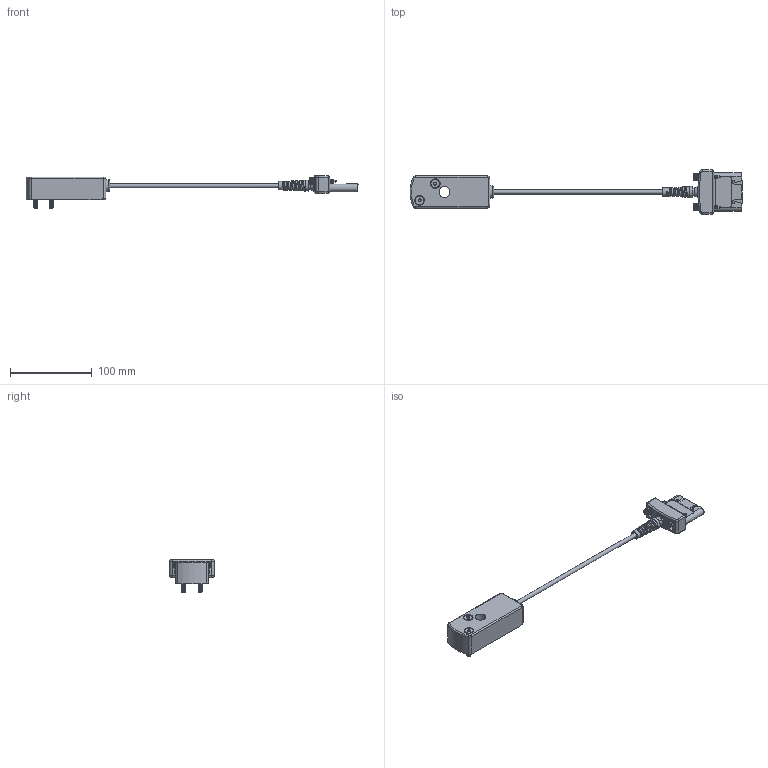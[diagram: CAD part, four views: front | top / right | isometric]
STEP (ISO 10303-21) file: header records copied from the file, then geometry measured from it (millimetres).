
FILE_DESCRIPTION(/* description */ (''),/* implementation_level */ '2;1');
FILE_NAME(/* name */ 'F:\CAD files\Itr\3D MARKETING MODELS\FORCE SENSORS\FS05\FS05_SENSOR_ADAPTER.stp',/* time_stamp */ '2021-02-08T14:47:40-05:00',/* author */ ('dsollitt'),/* organization */ (''),/* preprocessor_version */ 'ST-DEVELOPER v18.1',/* originating_system */ 'AutoCAD Mechanical',/* authorisation */ '');
FILE_SCHEMA (('AUTOMOTIVE_DESIGN { 1 0 10303 214 3 1 1 }'));
Length unit declared in the file: inch
Products named in the file (1): Product
Bounding box: 405.39 x 54.02 x 39.71 mm (x, y, z)
Volume: 138598.5 mm3; surface area: 37148.9 mm2
Topology: 3 solids, 3 shells, 1093 faces, 2999 edges, 1953 vertices
Faces by surface type: plane 520, cylinder 403, cone 100, sphere 28, bspline 26, torus 16
Full cylindrical faces by diameter (mm): 1.067 x24, 2.474 x14, 3.505 x10, 3.795 x56, 4.826 x54, 5.08 x1, 5.131 x2, 5.842 x2, 7.62 x5, 8.89 x2, 10.017 x1, 10.439 x2, 13.106 x1, 14.732 x1
Entity records: 53321 total; most frequent: CARTESIAN_POINT 26224, ORIENTED_EDGE 5950, DIRECTION 5394, EDGE_CURVE 2975, VERTEX_POINT 1953, AXIS2_PLACEMENT_3D 1889, LINE 1616, VECTOR 1616
